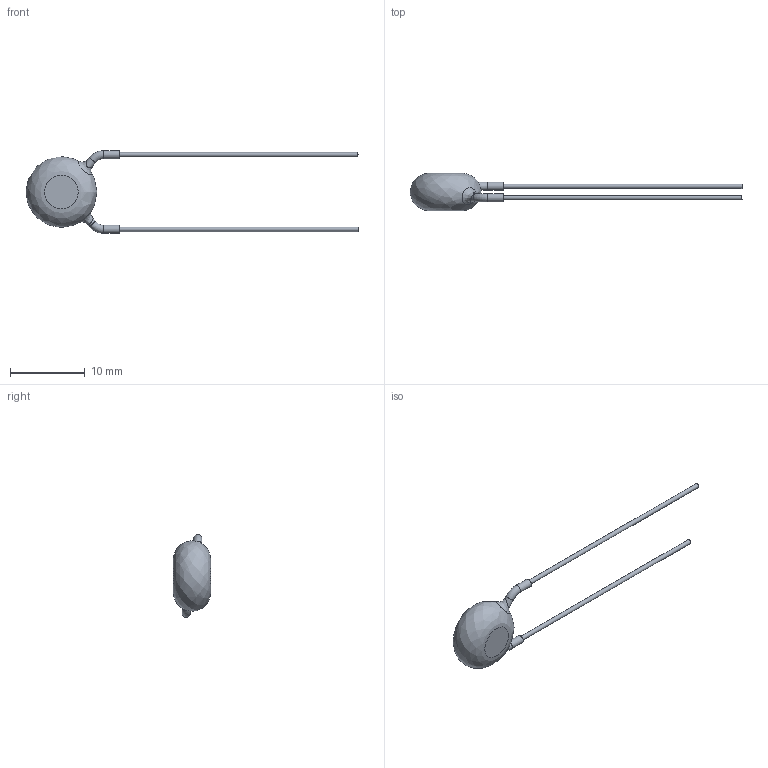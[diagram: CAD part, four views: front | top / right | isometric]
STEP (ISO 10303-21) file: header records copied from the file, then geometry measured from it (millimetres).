
FILE_DESCRIPTION((''),'2;1');
FILE_NAME('I:\Marketing\M6t1\3D-Models\Zchng-Werk-3\Upload for homepage\BCC\AY2\Y5U-10mm\AY2222M35Y5US63L0\AY2222M35Y5US63L0.stp','2015-09-09T08:52:56',(''),(''),'Autodesk Inventor 2013','Autodesk Inventor 2013','');
FILE_SCHEMA(('AUTOMOTIVE_DESIGN { 1 0 10303 214 1 1 1 1 }'));
Length unit declared in the file: centimetre
Products named in the file (1): AY2222M35Y5US63L0
Bounding box: 44.5 x 5 x 11.1 mm (x, y, z)
Volume: 312.4 mm3; surface area: 377 mm2
Topology: 1 solids, 1 shells, 17 faces, 31 edges, 20 vertices
Faces by surface type: cylinder 6, plane 6, bspline 3, torus 2
Full cylindrical faces by diameter (mm): 0.6 x2, 1.1 x4
Entity records: 693 total; most frequent: CARTESIAN_POINT 364, DIRECTION 58, ORIENTED_EDGE 36, EDGE_LOOP 30, AXIS2_PLACEMENT_3D 29, EDGE_CURVE 18, STYLED_ITEM 18, FACE_OUTER_BOUND 17
